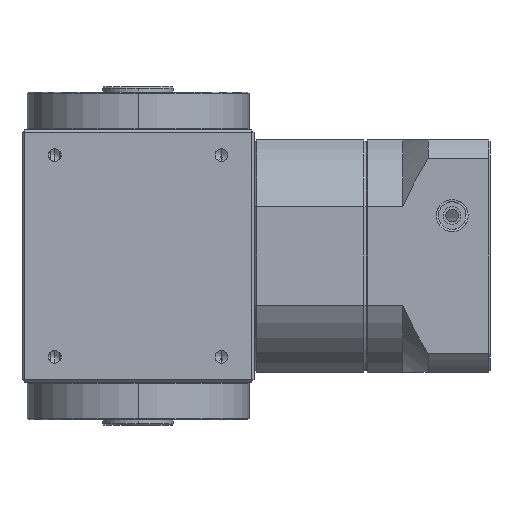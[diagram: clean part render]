
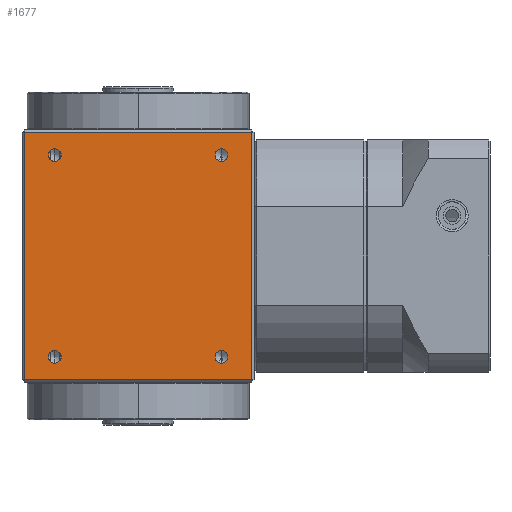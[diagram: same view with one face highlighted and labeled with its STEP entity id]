
A CAD part, left-side view. The second image highlights one B-rep face of the part: STEP entity #1677.
In plain terms, the highlighted planar face has unit normal (-1, 0, 0).
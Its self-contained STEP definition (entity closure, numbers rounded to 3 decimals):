
#65 = CIRCLE ( 'NONE', #4194, 2.5 ) ;
#88 = CIRCLE ( 'NONE', #4199, 2.5 ) ;
#94 = CIRCLE ( 'NONE', #4200, 2.5 ) ;
#99 = LINE ( 'NONE', #1919, #117 ) ;
#112 = LINE ( 'NONE', #1925, #115 ) ;
#115 = VECTOR ( 'NONE', #1927, 1000. ) ;
#117 = VECTOR ( 'NONE', #1928, 1000. ) ;
#121 = LINE ( 'NONE', #1929, #123 ) ;
#122 = LINE ( 'NONE', #1937, #125 ) ;
#123 = VECTOR ( 'NONE', #1930, 1000. ) ;
#125 = VECTOR ( 'NONE', #1938, 1000. ) ;
#126 = CIRCLE ( 'NONE', #4209, 2.5 ) ;
#128 = CIRCLE ( 'NONE', #4210, 2.5 ) ;
#615 = FACE_OUTER_BOUND ( 'NONE', #6754, .T. ) ;
#616 = FACE_BOUND ( 'NONE', #6767, .T. ) ;
#617 = FACE_BOUND ( 'NONE', #6750, .T. ) ;
#618 = FACE_BOUND ( 'NONE', #6760, .T. ) ;
#619 = FACE_BOUND ( 'NONE', #6633, .T. ) ;
#856 = CIRCLE ( 'NONE', #3952, 2.5 ) ;
#866 = CIRCLE ( 'NONE', #3954, 2.5 ) ;
#1677 = ADVANCED_FACE ( 'NONE', ( #616, #619, #617, #618, #615 ), #4413, .F. ) ;
#1919 = CARTESIAN_POINT ( 'NONE',  ( -46., -46., -49. ) ) ;
#1925 = CARTESIAN_POINT ( 'NONE',  ( -46., 46., 49. ) ) ;
#1927 = DIRECTION ( 'NONE',  ( 0., 1., 0. ) ) ;
#1928 = DIRECTION ( 'NONE',  ( 0., -1., 0. ) ) ;
#1929 = CARTESIAN_POINT ( 'NONE',  ( -46., -45., 50. ) ) ;
#1930 = DIRECTION ( 'NONE',  ( 0., 0., 1. ) ) ;
#1937 = CARTESIAN_POINT ( 'NONE',  ( -46., 45., 50. ) ) ;
#1938 = DIRECTION ( 'NONE',  ( 0., 0., -1. ) ) ;
#1943 = CARTESIAN_POINT ( 'NONE',  ( -46., 33., -40. ) ) ;
#1944 = DIRECTION ( 'NONE',  ( -1., 0., 0. ) ) ;
#1945 = DIRECTION ( 'NONE',  ( 0., 0., 1. ) ) ;
#1946 = CARTESIAN_POINT ( 'NONE',  ( -46., -33., 40. ) ) ;
#1947 = DIRECTION ( 'NONE',  ( -1., 0., 0. ) ) ;
#1948 = DIRECTION ( 'NONE',  ( 0., 0., 1. ) ) ;
#1985 = CARTESIAN_POINT ( 'NONE',  ( -46., 45., -49. ) ) ;
#1986 = CARTESIAN_POINT ( 'NONE',  ( -46., -33., 42.5 ) ) ;
#1991 = CARTESIAN_POINT ( 'NONE',  ( -46., 33., 42.5 ) ) ;
#1993 = CARTESIAN_POINT ( 'NONE',  ( -46., 33., 37.5 ) ) ;
#2324 = CARTESIAN_POINT ( 'NONE',  ( -46., 33., -42.5 ) ) ;
#2327 = CARTESIAN_POINT ( 'NONE',  ( -46., 33., -37.5 ) ) ;
#2462 = CARTESIAN_POINT ( 'NONE',  ( -46., 33., -40. ) ) ;
#2463 = DIRECTION ( 'NONE',  ( -1., 0., 0. ) ) ;
#2464 = DIRECTION ( 'NONE',  ( 0., 0., 1. ) ) ;
#2498 = CARTESIAN_POINT ( 'NONE',  ( -46., 33., 40. ) ) ;
#2499 = DIRECTION ( 'NONE',  ( -1., 0., 0. ) ) ;
#2500 = DIRECTION ( 'NONE',  ( 0., 0., 1. ) ) ;
#2502 = CARTESIAN_POINT ( 'NONE',  ( -46., -33., -40. ) ) ;
#2503 = DIRECTION ( 'NONE',  ( -1., 0., 0. ) ) ;
#2504 = DIRECTION ( 'NONE',  ( 0., 0., 1. ) ) ;
#2625 = CARTESIAN_POINT ( 'NONE',  ( -46., -33., -40. ) ) ;
#2626 = DIRECTION ( 'NONE',  ( -1., 0., 0. ) ) ;
#2627 = DIRECTION ( 'NONE',  ( 0., 0., 1. ) ) ;
#2638 = CARTESIAN_POINT ( 'NONE',  ( -46., -33., 40. ) ) ;
#2639 = DIRECTION ( 'NONE',  ( -1., 0., 0. ) ) ;
#2640 = DIRECTION ( 'NONE',  ( 0., 0., 1. ) ) ;
#2780 = CARTESIAN_POINT ( 'NONE',  ( -46., 33., 40. ) ) ;
#2781 = DIRECTION ( 'NONE',  ( -1., 0., 0. ) ) ;
#2782 = DIRECTION ( 'NONE',  ( 0., 0., 1. ) ) ;
#3079 = EDGE_CURVE ( 'NONE', #5786, #5787, #856, .T. ) ;
#3085 = EDGE_CURVE ( 'NONE', #5838, #5909, #866, .T. ) ;
#3110 = EDGE_CURVE ( 'NONE', #5910, #5906, #8263, .T. ) ;
#3881 = AXIS2_PLACEMENT_3D ( 'NONE', #4410, #4406, #4416 ) ;
#3952 = AXIS2_PLACEMENT_3D ( 'NONE', #2625, #2626, #2627 ) ;
#3954 = AXIS2_PLACEMENT_3D ( 'NONE', #2638, #2639, #2640 ) ;
#3964 = AXIS2_PLACEMENT_3D ( 'NONE', #2780, #2781, #2782 ) ;
#4194 = AXIS2_PLACEMENT_3D ( 'NONE', #2462, #2463, #2464 ) ;
#4199 = AXIS2_PLACEMENT_3D ( 'NONE', #2498, #2499, #2500 ) ;
#4200 = AXIS2_PLACEMENT_3D ( 'NONE', #2502, #2503, #2504 ) ;
#4209 = AXIS2_PLACEMENT_3D ( 'NONE', #1943, #1944, #1945 ) ;
#4210 = AXIS2_PLACEMENT_3D ( 'NONE', #1946, #1947, #1948 ) ;
#4406 = DIRECTION ( 'NONE',  ( 1., 0., 0. ) ) ;
#4410 = CARTESIAN_POINT ( 'NONE',  ( -46., -46., 50. ) ) ;
#4413 = PLANE ( 'NONE',  #3881 ) ;
#4416 = DIRECTION ( 'NONE',  ( 0., 0., -1. ) ) ;
#5786 = VERTEX_POINT ( 'NONE', #7638 ) ;
#5787 = VERTEX_POINT ( 'NONE', #7639 ) ;
#5790 = VERTEX_POINT ( 'NONE', #7642 ) ;
#5795 = VERTEX_POINT ( 'NONE', #7647 ) ;
#5799 = VERTEX_POINT ( 'NONE', #7651 ) ;
#5838 = VERTEX_POINT ( 'NONE', #7690 ) ;
#5896 = VERTEX_POINT ( 'NONE', #1985 ) ;
#5906 = VERTEX_POINT ( 'NONE', #1991 ) ;
#5909 = VERTEX_POINT ( 'NONE', #1986 ) ;
#5910 = VERTEX_POINT ( 'NONE', #1993 ) ;
#6430 = ORIENTED_EDGE ( 'NONE', *, *, #8936, .F. ) ;
#6431 = ORIENTED_EDGE ( 'NONE', *, *, #7187, .F. ) ;
#6432 = ORIENTED_EDGE ( 'NONE', *, *, #8958, .F. ) ;
#6434 = ORIENTED_EDGE ( 'NONE', *, *, #8959, .F. ) ;
#6435 = ORIENTED_EDGE ( 'NONE', *, *, #8937, .F. ) ;
#6436 = ORIENTED_EDGE ( 'NONE', *, *, #3085, .F. ) ;
#6438 = ORIENTED_EDGE ( 'NONE', *, *, #3110, .F. ) ;
#6440 = ORIENTED_EDGE ( 'NONE', *, *, #8951, .T. ) ;
#6441 = ORIENTED_EDGE ( 'NONE', *, *, #3079, .F. ) ;
#6443 = ORIENTED_EDGE ( 'NONE', *, *, #8955, .T. ) ;
#6444 = ORIENTED_EDGE ( 'NONE', *, *, #8950, .T. ) ;
#6445 = ORIENTED_EDGE ( 'NONE', *, *, #8956, .T. ) ;
#6633 = EDGE_LOOP ( 'NONE', ( #6430, #6438 ) ) ;
#6750 = EDGE_LOOP ( 'NONE', ( #6434, #6436 ) ) ;
#6754 = EDGE_LOOP ( 'NONE', ( #6443, #6444, #6445, #6440 ) ) ;
#6760 = EDGE_LOOP ( 'NONE', ( #6435, #6441 ) ) ;
#6767 = EDGE_LOOP ( 'NONE', ( #6432, #6431 ) ) ;
#6916 = VERTEX_POINT ( 'NONE', #2324 ) ;
#6919 = VERTEX_POINT ( 'NONE', #2327 ) ;
#7187 = EDGE_CURVE ( 'NONE', #6916, #6919, #65, .T. ) ;
#7638 = CARTESIAN_POINT ( 'NONE',  ( -46., -33., -42.5 ) ) ;
#7639 = CARTESIAN_POINT ( 'NONE',  ( -46., -33., -37.5 ) ) ;
#7642 = CARTESIAN_POINT ( 'NONE',  ( -46., 45., 49. ) ) ;
#7647 = CARTESIAN_POINT ( 'NONE',  ( -46., -45., -49. ) ) ;
#7651 = CARTESIAN_POINT ( 'NONE',  ( -46., -45., 49. ) ) ;
#7690 = CARTESIAN_POINT ( 'NONE',  ( -46., -33., 37.5 ) ) ;
#8263 = CIRCLE ( 'NONE', #3964, 2.5 ) ;
#8936 = EDGE_CURVE ( 'NONE', #5906, #5910, #88, .T. ) ;
#8937 = EDGE_CURVE ( 'NONE', #5787, #5786, #94, .T. ) ;
#8950 = EDGE_CURVE ( 'NONE', #5799, #5790, #112, .T. ) ;
#8951 = EDGE_CURVE ( 'NONE', #5896, #5795, #99, .T. ) ;
#8955 = EDGE_CURVE ( 'NONE', #5795, #5799, #121, .T. ) ;
#8956 = EDGE_CURVE ( 'NONE', #5790, #5896, #122, .T. ) ;
#8958 = EDGE_CURVE ( 'NONE', #6919, #6916, #126, .T. ) ;
#8959 = EDGE_CURVE ( 'NONE', #5909, #5838, #128, .T. ) ;
